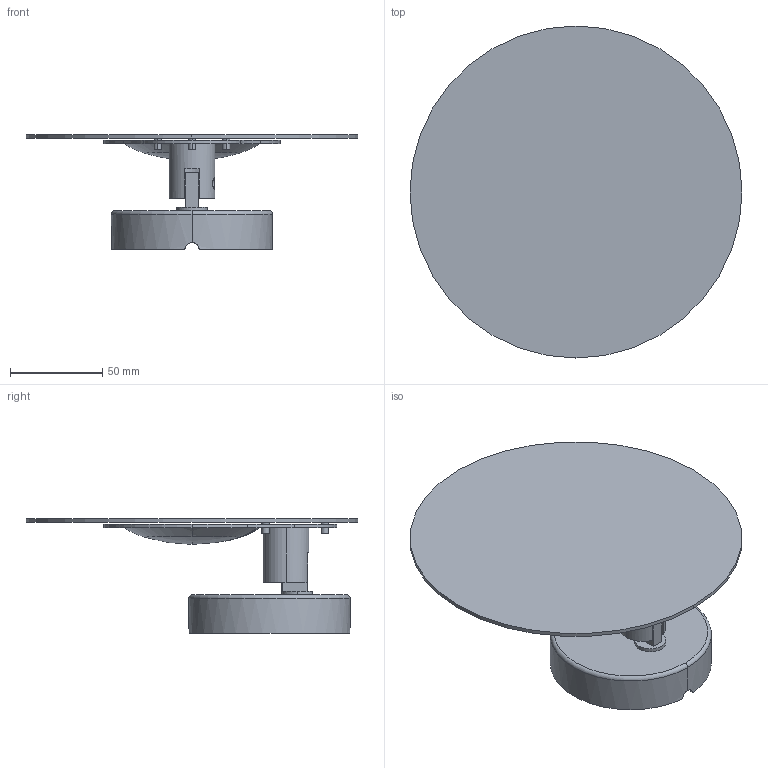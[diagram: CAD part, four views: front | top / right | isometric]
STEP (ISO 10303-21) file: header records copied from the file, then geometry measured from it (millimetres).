
FILE_DESCRIPTION((''),'2;1');
FILE_NAME('VOL_E_180_SW0001','2025-05-15T16:43:17',('elena.baldelli'),(''),'CREO PARAMETRIC BY PTC INC, 2020354','CREO PARAMETRIC BY PTC INC, 2020354','');
FILE_SCHEMA(('CONFIG_CONTROL_DESIGN'));
Length unit declared in the file: millimetre
Products named in the file (1): VOL_E_180_SW0001
Bounding box: 180 x 180 x 62.35 mm (x, y, z)
Surface area: 95239.9 mm2 (no closed solid volume)
Topology: 0 solids, 10 shells, 87 faces, 240 edges, 159 vertices
Faces by surface type: cylinder 35, plane 34, sphere 7, bspline 5, torus 4, cone 2
Entity records: 12938 total; most frequent: CARTESIAN_POINT 10753, DIRECTION 452, ORIENTED_EDGE 434, EDGE_CURVE 240, AXIS2_PLACEMENT_3D 186, VERTEX_POINT 159, CIRCLE 104, EDGE_LOOP 87
